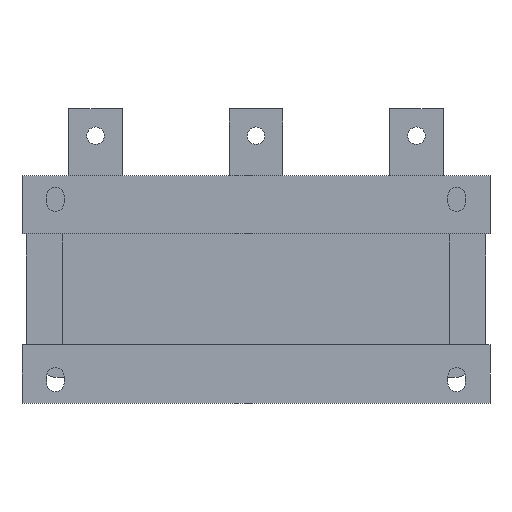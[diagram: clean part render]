
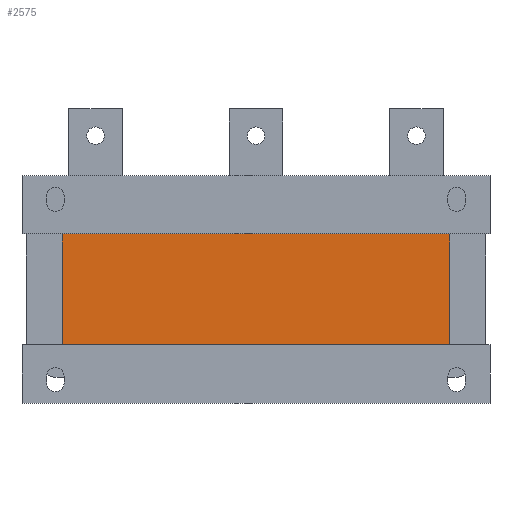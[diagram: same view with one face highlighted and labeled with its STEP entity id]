
A CAD part, front view. The second image highlights one B-rep face of the part: STEP entity #2575.
In plain terms, the highlighted planar face has unit normal (0, -1, 0).
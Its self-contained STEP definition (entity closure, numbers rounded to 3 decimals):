
#92=PLANE('',#2772);
#216=FACE_OUTER_BOUND('',#364,.T.);
#364=EDGE_LOOP('',(#2052,#2053,#2054,#2055));
#598=LINE('',#3975,#908);
#599=LINE('',#3977,#909);
#600=LINE('',#3979,#910);
#601=LINE('',#3980,#911);
#908=VECTOR('',#3238,10.);
#909=VECTOR('',#3239,10.);
#910=VECTOR('',#3240,10.);
#911=VECTOR('',#3241,10.);
#1257=VERTEX_POINT('',#3973);
#1258=VERTEX_POINT('',#3974);
#1259=VERTEX_POINT('',#3976);
#1260=VERTEX_POINT('',#3978);
#1559=EDGE_CURVE('',#1257,#1258,#598,.T.);
#1560=EDGE_CURVE('',#1259,#1257,#599,.T.);
#1561=EDGE_CURVE('',#1260,#1259,#600,.T.);
#1562=EDGE_CURVE('',#1258,#1260,#601,.T.);
#2052=ORIENTED_EDGE('',*,*,#1559,.F.);
#2053=ORIENTED_EDGE('',*,*,#1560,.F.);
#2054=ORIENTED_EDGE('',*,*,#1561,.F.);
#2055=ORIENTED_EDGE('',*,*,#1562,.F.);
#2575=ADVANCED_FACE('',(#216),#92,.F.);
#2772=AXIS2_PLACEMENT_3D('',#3972,#3236,#3237);
#3236=DIRECTION('center_axis',(0.,1.,0.));
#3237=DIRECTION('ref_axis',(0.,0.,1.));
#3238=DIRECTION('',(1.,0.,0.));
#3239=DIRECTION('',(0.,0.,1.));
#3240=DIRECTION('',(-1.,0.,0.));
#3241=DIRECTION('',(0.,0.,-1.));
#3972=CARTESIAN_POINT('Origin',(0.,2.,0.));
#3973=CARTESIAN_POINT('',(-145.,2.,41.5));
#3974=CARTESIAN_POINT('',(145.,2.,41.5));
#3975=CARTESIAN_POINT('',(145.,2.,41.5));
#3976=CARTESIAN_POINT('',(-145.,2.,-41.5));
#3977=CARTESIAN_POINT('',(-145.,2.,-20.75));
#3978=CARTESIAN_POINT('',(145.,2.,-41.5));
#3979=CARTESIAN_POINT('',(-145.,2.,-41.5));
#3980=CARTESIAN_POINT('',(145.,2.,20.75));
